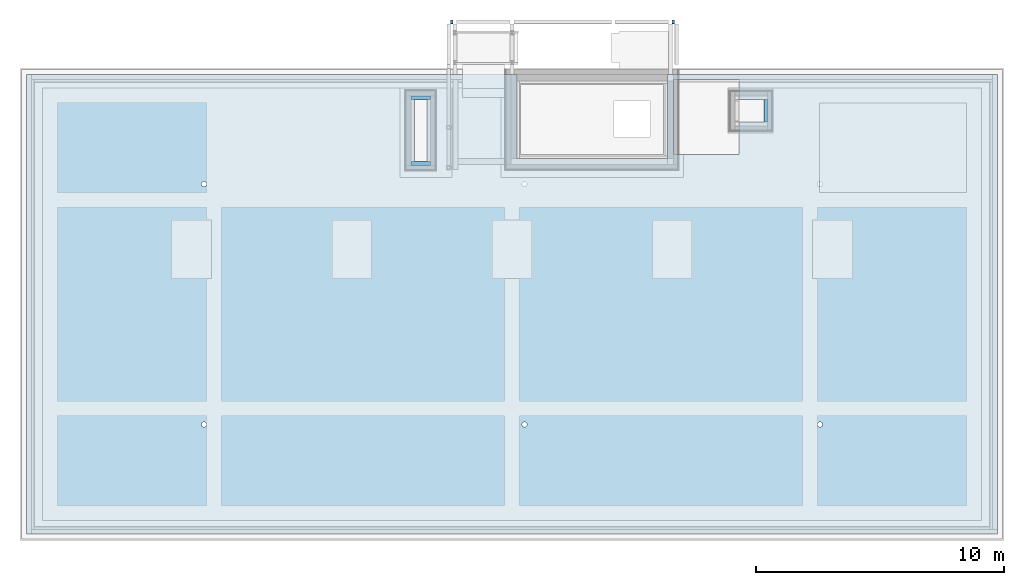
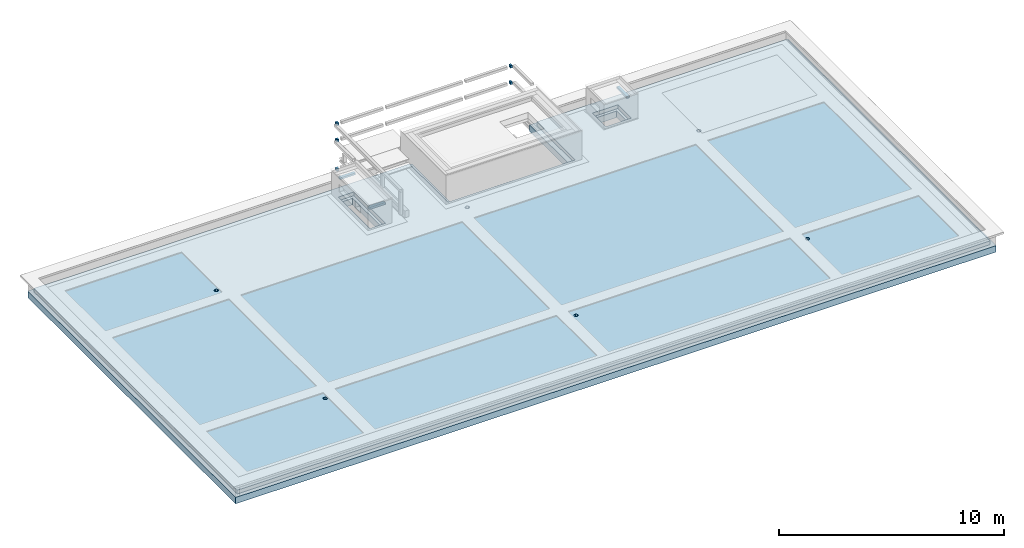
# One storey, part 4 of 8: 8 beams, 2 slabs, 16 openings.
"""IFC2X3 building model written with IfcOpenShell, lengths in centimetres."""

from ifc_helpers import new_model, entity, si_unit, converted_unit, derived_unit, direction, frame, frame_2d, origin, origin_2d_with_axis, place, context, subcontext, project, spatial, polyline, circle_curve, parameter, trimmed, segment, composite_curve, rectangle, circle, outline, extrude, material, layer, layer_set, layer_usage, type_object, element, save


model = new_model("IFC2X3")

# Units and contexts
model_context = context("Model", 3, precision=0.001, world=origin(), true_north=direction((6.12303176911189e-17, 1.0)))
body_context = subcontext(model_context, "Body", "Model", "MODEL_VIEW")
ifc_project = project(units=[si_unit("LENGTHUNIT", "METRE", prefix="CENTI"), si_unit("AREAUNIT", "SQUARE_METRE"), si_unit("VOLUMEUNIT", "CUBIC_METRE"), converted_unit("PLANEANGLEUNIT", "DEGREE", entity("IfcRatioMeasure", 0.0174532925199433), si_unit("PLANEANGLEUNIT", "RADIAN"), dimensions=[0, 0, 0, 0, 0, 0, 0]), si_unit("MASSUNIT", "GRAM", prefix="KILO"), derived_unit("MASSDENSITYUNIT", [(si_unit("MASSUNIT", "GRAM", prefix="KILO"), 1), (si_unit("LENGTHUNIT", "METRE"), -3)]), derived_unit("MOMENTOFINERTIAUNIT", [(si_unit("LENGTHUNIT", "METRE"), 4)]), si_unit("TIMEUNIT", "SECOND"), si_unit("FREQUENCYUNIT", "HERTZ"), si_unit("THERMODYNAMICTEMPERATUREUNIT", "DEGREE_CELSIUS"), derived_unit("THERMALTRANSMITTANCEUNIT", [(si_unit("MASSUNIT", "GRAM", prefix="KILO"), 1), (si_unit("THERMODYNAMICTEMPERATUREUNIT", "KELVIN"), -1), (si_unit("TIMEUNIT", "SECOND"), -3)]), derived_unit("VOLUMETRICFLOWRATEUNIT", [(si_unit("LENGTHUNIT", "METRE"), 3), (si_unit("TIMEUNIT", "SECOND"), -1)]), si_unit("ELECTRICCURRENTUNIT", "AMPERE"), si_unit("ELECTRICVOLTAGEUNIT", "VOLT"), si_unit("POWERUNIT", "WATT"), si_unit("FORCEUNIT", "NEWTON", prefix="KILO"), si_unit("ILLUMINANCEUNIT", "LUX"), si_unit("LUMINOUSFLUXUNIT", "LUMEN"), si_unit("LUMINOUSINTENSITYUNIT", "CANDELA"), derived_unit("USERDEFINED", [(si_unit("MASSUNIT", "GRAM", prefix="KILO"), -1), (si_unit("LENGTHUNIT", "METRE"), -2), (si_unit("TIMEUNIT", "SECOND"), 3), (si_unit("LUMINOUSFLUXUNIT", "LUMEN"), 1)]), derived_unit("LINEARVELOCITYUNIT", [(si_unit("LENGTHUNIT", "METRE"), 1), (si_unit("TIMEUNIT", "SECOND"), -1)]), si_unit("PRESSUREUNIT", "PASCAL"), derived_unit("USERDEFINED", [(si_unit("LENGTHUNIT", "METRE"), -2), (si_unit("MASSUNIT", "GRAM", prefix="KILO"), 1), (si_unit("TIMEUNIT", "SECOND"), -2)]), derived_unit("LINEARFORCEUNIT", [(si_unit("MASSUNIT", "GRAM", prefix="KILO"), 1), (si_unit("LENGTHUNIT", "METRE"), 1), (si_unit("TIMEUNIT", "SECOND"), -2), (si_unit("LENGTHUNIT", "METRE"), -1)]), derived_unit("PLANARFORCEUNIT", [(si_unit("MASSUNIT", "GRAM", prefix="KILO"), 1), (si_unit("LENGTHUNIT", "METRE"), 1), (si_unit("TIMEUNIT", "SECOND"), -2), (si_unit("LENGTHUNIT", "METRE"), -2)])], contexts=[model_context])

# Site, building, storey
site_placement = place(None, origin())
site = spatial("IfcSite", under=ifc_project, at=site_placement, Name="Default", CompositionType="ELEMENT")
building_placement = place(site_placement, origin())
building = spatial("IfcBuilding", under=site, at=building_placement, CompositionType="ELEMENT")
storey_placement = place(building_placement, frame((0.0, 0.0, 970.0)))
storey = spatial("IfcBuildingStorey", under=building, at=storey_placement, Name="Poziom 2K +9,70", CompositionType="ELEMENT", Elevation=970.0)

# Beams
ifc_material_1 = material(Name="_Beton C30/37")
beam_type_1 = type_object("IfcBeamType", Name="Beton-belka prostokątna:wieniec 10x15", PredefinedType="NOTDEFINED")
beam_1_placement = place(storey_placement, frame((-1386.76517166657, 1747.62759807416, -142.0)))
element("IfcBeam", 1, at=beam_1_placement, inside=storey, type_object=beam_type_1, material=ifc_material_1, Name="Beton-belka prostokątna:wieniec 10x15", ObjectType="Beton-belka prostokątna:wieniec 10x15", context=body_context, shape_type="SweptSolid", body=[
    extrude(rectangle(XDim=10.0000000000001, YDim=15.0000000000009, at=frame_2d((-1.08357767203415e-13, 2.16715534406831e-13), x_axis=(1.0, 0.0))), frame((0.0, 265.0, 270.0), z_axis=(1.0, 0.0, 0.0), x_axis=(0.0, 0.0, -1.0)), (0.0, 0.0, 1.0), 80.0000584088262),
])
beam_2_placement = place(storey_placement, frame((-1386.76517166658, 1482.62745205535, -142.0)))
element("IfcBeam", 2, at=beam_2_placement, inside=storey, type_object=beam_type_1, material=ifc_material_1, Name="Beton-belka prostokątna:wieniec 10x15", ObjectType="Beton-belka prostokątna:wieniec 10x15", context=body_context, shape_type="SweptSolid", body=[
    extrude(rectangle(XDim=10.0000000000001, YDim=15.0000000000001, at=frame_2d((-1.08357767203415e-13, 5.41344746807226e-13), x_axis=(1.0, 0.0))), frame((0.0, 265.0, 270.0), z_axis=(1.0, 0.0, 0.0), x_axis=(0.0, 0.0, -1.0)), (0.0, 0.0, 1.0), 80.0000584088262),
])
beam_3_placement = place(storey_placement, frame((306.734879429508, 1899.12578826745, -142.0), z_axis=(0.0, 0.0, 1.0), x_axis=(0.0, 1.0, 0.0)))
element("IfcBeam", 3, at=beam_3_placement, inside=storey, type_object=beam_type_1, material=ifc_material_1, Name="Beton-belka prostokątna:wieniec 10x15", ObjectType="Beton-belka prostokątna:wieniec 10x15", context=body_context, shape_type="SweptSolid", body=[
    extrude(rectangle(XDim=10.0000000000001, YDim=15.0000000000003, at=frame_2d((-1.08357767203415e-13, 0.0), x_axis=(1.0, 0.0))), frame((15.0, 265.0, 270.0), z_axis=(1.0, 0.0, 0.0), x_axis=(0.0, 0.0, -1.0)), (0.0, 0.0, 1.0), 90.0017225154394),
])
ifc_material_2 = material(Name="Stal konstrukcyjna - S235")
beam_type_2 = type_object("IfcBeamType", Name="STAL RK - Ksztaltowniki zamkniete kwadratowe:RK150x6", PredefinedType="NOTDEFINED")
beam_4_placement = place(storey_placement, frame((-1216.72475324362, 2317.08692648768, 175.0), z_axis=(0.0, 0.0, 1.0), x_axis=(-1.0, 0.0, 0.0)))
element("IfcBeam", 4, at=beam_4_placement, inside=storey, type_object=beam_type_2, material=ifc_material_2, Name="STAL RK - Ksztaltowniki zamkniete kwadratowe:RK150x6", ObjectType="STAL RK - Ksztaltowniki zamkniete kwadratowe:RK150x6", context=body_context, shape_type="SweptSolid", body=[
    extrude(outline(composite_curve([segment(trimmed(circle_curve(frame_2d((-6.29999999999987, -6.29999999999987), x_axis=(1.0, 0.0)), 1.2), [parameter(180.0)], [parameter(270.0)], True, "PARAMETER"), True, "CONTINUOUS"), segment(polyline([(-6.29999999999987, -7.50000000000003), (6.29999999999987, -7.50000000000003)]), True, "CONTINUOUS"), segment(trimmed(circle_curve(frame_2d((6.3000000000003, -6.30000000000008), x_axis=(1.0, 0.0)), 1.19999999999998), [parameter(270.0)], [parameter(360.0)], True, "PARAMETER"), True, "CONTINUOUS"), segment(polyline([(7.50000000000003, -6.30000000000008), (7.50000000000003, 6.29999999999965)]), True, "CONTINUOUS"), segment(trimmed(circle_curve(frame_2d((6.29999999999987, 6.29999999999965), x_axis=(1.0, 0.0)), 1.20000000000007), [parameter(360.0)], [parameter(89.9999999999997)], True, "PARAMETER"), True, "CONTINUOUS"), segment(polyline([(6.29999999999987, 7.49999999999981), (-6.30000000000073, 7.49999999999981)]), True, "CONTINUOUS"), segment(trimmed(circle_curve(frame_2d((-6.30000000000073, 6.30000000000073), x_axis=(1.0, 0.0)), 1.19999999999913), [parameter(89.9999999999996)], [parameter(179.999999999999)], True, "PARAMETER"), True, "CONTINUOUS"), segment(polyline([(-7.50000000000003, 6.30000000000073), (-7.50000000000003, -6.29999999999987)]), True, "CONTINUOUS")], self_intersect=False), holes=[composite_curve([segment(polyline([(-6.90000000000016, -6.29999999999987), (-6.90000000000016, 6.30000000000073)]), True, "CONTINUOUS"), segment(trimmed(circle_curve(frame_2d((-6.30000000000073, 6.30000000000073), x_axis=(1.0, 0.0)), 0.59999999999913), [parameter(90.0000000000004)], [parameter(180.0)], True, "PARAMETER"), False, "CONTINUOUS"), segment(polyline([(-6.30000000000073, 6.89999999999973), (6.29999999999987, 6.89999999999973)]), True, "CONTINUOUS"), segment(trimmed(circle_curve(frame_2d((6.29999999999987, 6.29999999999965), x_axis=(1.0, 0.0)), 0.600000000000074), [parameter(4.07110999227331e-13)], [parameter(90.0000000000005)], True, "PARAMETER"), False, "CONTINUOUS"), segment(polyline([(6.90000000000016, 6.29999999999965), (6.90000000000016, -6.30000000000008)]), True, "CONTINUOUS"), segment(trimmed(circle_curve(frame_2d((6.3000000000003, -6.30000000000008), x_axis=(1.0, 0.0)), 0.59999999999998), [parameter(270.0)], [parameter(5.08888749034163e-13)], True, "PARAMETER"), False, "CONTINUOUS"), segment(polyline([(6.29999999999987, -6.89999999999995), (-6.29999999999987, -6.89999999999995)]), True, "CONTINUOUS"), segment(trimmed(circle_curve(frame_2d((-6.29999999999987, -6.29999999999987), x_axis=(1.0, 0.0)), 0.600000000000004), [parameter(180.0)], [parameter(270.0)], True, "PARAMETER"), False, "CONTINUOUS")], self_intersect=False)]), frame((0.014791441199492, -0.259999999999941, 7.50000000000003), z_axis=(1.0, 0.0, 0.0), x_axis=(0.0, -1.0, 0.0)), (0.0, 0.0, 1.0), 10.5000000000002),
])
beam_5_placement = place(storey_placement, frame((-1216.72475324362, 2317.08692648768, 85.0), z_axis=(0.0, 0.0, 1.0), x_axis=(-1.0, 0.0, 0.0)))
element("IfcBeam", 5, at=beam_5_placement, inside=storey, type_object=beam_type_2, material=ifc_material_2, Name="STAL RK - Ksztaltowniki zamkniete kwadratowe:RK150x6", ObjectType="STAL RK - Ksztaltowniki zamkniete kwadratowe:RK150x6", context=body_context, shape_type="SweptSolid", body=[
    extrude(outline(composite_curve([segment(trimmed(circle_curve(frame_2d((-6.29999999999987, -6.29999999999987), x_axis=(1.0, 0.0)), 1.2), [parameter(180.0)], [parameter(270.0)], True, "PARAMETER"), True, "CONTINUOUS"), segment(polyline([(-6.29999999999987, -7.50000000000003), (6.29999999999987, -7.50000000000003)]), True, "CONTINUOUS"), segment(trimmed(circle_curve(frame_2d((6.3000000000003, -6.30000000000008), x_axis=(1.0, 0.0)), 1.19999999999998), [parameter(270.0)], [parameter(360.0)], True, "PARAMETER"), True, "CONTINUOUS"), segment(polyline([(7.50000000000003, -6.30000000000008), (7.50000000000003, 6.29999999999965)]), True, "CONTINUOUS"), segment(trimmed(circle_curve(frame_2d((6.29999999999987, 6.29999999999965), x_axis=(1.0, 0.0)), 1.20000000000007), [parameter(360.0)], [parameter(89.9999999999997)], True, "PARAMETER"), True, "CONTINUOUS"), segment(polyline([(6.29999999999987, 7.49999999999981), (-6.30000000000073, 7.49999999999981)]), True, "CONTINUOUS"), segment(trimmed(circle_curve(frame_2d((-6.30000000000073, 6.30000000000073), x_axis=(1.0, 0.0)), 1.19999999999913), [parameter(89.9999999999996)], [parameter(179.999999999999)], True, "PARAMETER"), True, "CONTINUOUS"), segment(polyline([(-7.50000000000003, 6.30000000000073), (-7.50000000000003, -6.29999999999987)]), True, "CONTINUOUS")], self_intersect=False), holes=[composite_curve([segment(polyline([(-6.90000000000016, -6.29999999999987), (-6.90000000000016, 6.30000000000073)]), True, "CONTINUOUS"), segment(trimmed(circle_curve(frame_2d((-6.30000000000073, 6.30000000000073), x_axis=(1.0, 0.0)), 0.59999999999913), [parameter(90.0000000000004)], [parameter(180.0)], True, "PARAMETER"), False, "CONTINUOUS"), segment(polyline([(-6.30000000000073, 6.89999999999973), (6.29999999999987, 6.89999999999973)]), True, "CONTINUOUS"), segment(trimmed(circle_curve(frame_2d((6.29999999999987, 6.29999999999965), x_axis=(1.0, 0.0)), 0.600000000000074), [parameter(4.07110999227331e-13)], [parameter(90.0000000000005)], True, "PARAMETER"), False, "CONTINUOUS"), segment(polyline([(6.90000000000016, 6.29999999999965), (6.90000000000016, -6.30000000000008)]), True, "CONTINUOUS"), segment(trimmed(circle_curve(frame_2d((6.3000000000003, -6.30000000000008), x_axis=(1.0, 0.0)), 0.59999999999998), [parameter(270.0)], [parameter(5.08888749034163e-13)], True, "PARAMETER"), False, "CONTINUOUS"), segment(polyline([(6.29999999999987, -6.89999999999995), (-6.29999999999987, -6.89999999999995)]), True, "CONTINUOUS"), segment(trimmed(circle_curve(frame_2d((-6.29999999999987, -6.29999999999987), x_axis=(1.0, 0.0)), 0.600000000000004), [parameter(180.0)], [parameter(270.0)], True, "PARAMETER"), False, "CONTINUOUS")], self_intersect=False)]), frame((0.0147914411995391, -0.259999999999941, 7.50000000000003), z_axis=(1.0, 0.0, 0.0), x_axis=(0.0, -1.0, 0.0)), (0.0, 0.0, 1.0), 10.5000000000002),
])
beam_6_placement = place(storey_placement, frame((-1216.72475324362, 2317.08692648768, -73.0), z_axis=(0.0, 0.0, 1.0), x_axis=(-1.0, 0.0, 0.0)))
element("IfcBeam", 6, at=beam_6_placement, inside=storey, type_object=beam_type_2, material=ifc_material_2, Name="STAL RK - Ksztaltowniki zamkniete kwadratowe:RK150x6", ObjectType="STAL RK - Ksztaltowniki zamkniete kwadratowe:RK150x6", context=body_context, shape_type="SweptSolid", body=[
    extrude(outline(composite_curve([segment(trimmed(circle_curve(frame_2d((-6.29999999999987, -6.30000000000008), x_axis=(1.0, 0.0)), 1.2), [parameter(180.0)], [parameter(270.0)], True, "PARAMETER"), True, "CONTINUOUS"), segment(polyline([(-6.29999999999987, -7.50000000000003), (6.29999999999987, -7.50000000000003)]), True, "CONTINUOUS"), segment(trimmed(circle_curve(frame_2d((6.3000000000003, -6.30000000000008), x_axis=(1.0, 0.0)), 1.19999999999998), [parameter(270.0)], [parameter(360.0)], True, "PARAMETER"), True, "CONTINUOUS"), segment(polyline([(7.50000000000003, -6.30000000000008), (7.50000000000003, 6.29999999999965)]), True, "CONTINUOUS"), segment(trimmed(circle_curve(frame_2d((6.29999999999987, 6.29999999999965), x_axis=(1.0, 0.0)), 1.20000000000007), [parameter(360.0)], [parameter(89.9999999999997)], True, "PARAMETER"), True, "CONTINUOUS"), segment(polyline([(6.29999999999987, 7.4999999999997), (-6.30000000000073, 7.4999999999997)]), True, "CONTINUOUS"), segment(trimmed(circle_curve(frame_2d((-6.30000000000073, 6.30000000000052), x_axis=(1.0, 0.0)), 1.19999999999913), [parameter(89.9999999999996)], [parameter(179.999999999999)], True, "PARAMETER"), True, "CONTINUOUS"), segment(polyline([(-7.50000000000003, 6.30000000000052), (-7.50000000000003, -6.30000000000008)]), True, "CONTINUOUS")], self_intersect=False), holes=[composite_curve([segment(polyline([(-6.90000000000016, -6.30000000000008), (-6.90000000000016, 6.30000000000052)]), True, "CONTINUOUS"), segment(trimmed(circle_curve(frame_2d((-6.30000000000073, 6.30000000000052), x_axis=(1.0, 0.0)), 0.59999999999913), [parameter(90.0000000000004)], [parameter(180.0)], True, "PARAMETER"), False, "CONTINUOUS"), segment(polyline([(-6.30000000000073, 6.89999999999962), (6.29999999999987, 6.89999999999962)]), True, "CONTINUOUS"), segment(trimmed(circle_curve(frame_2d((6.29999999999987, 6.29999999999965), x_axis=(1.0, 0.0)), 0.600000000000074), [parameter(4.07110999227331e-13)], [parameter(90.0000000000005)], True, "PARAMETER"), False, "CONTINUOUS"), segment(polyline([(6.90000000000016, 6.29999999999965), (6.90000000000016, -6.30000000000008)]), True, "CONTINUOUS"), segment(trimmed(circle_curve(frame_2d((6.3000000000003, -6.30000000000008), x_axis=(1.0, 0.0)), 0.59999999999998), [parameter(270.0)], [parameter(5.08888749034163e-13)], True, "PARAMETER"), False, "CONTINUOUS"), segment(polyline([(6.29999999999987, -6.90000000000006), (-6.29999999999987, -6.90000000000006)]), True, "CONTINUOUS"), segment(trimmed(circle_curve(frame_2d((-6.29999999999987, -6.30000000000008), x_axis=(1.0, 0.0)), 0.600000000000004), [parameter(180.0)], [parameter(270.0)], True, "PARAMETER"), False, "CONTINUOUS")], self_intersect=False)]), frame((0.0147914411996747, -0.259999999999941, 7.49999999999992), z_axis=(1.0, 0.0, 0.0), x_axis=(0.0, -1.0, 0.0)), (0.0, 0.0, 1.0), 10.5000000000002),
])
beam_7_placement = place(storey_placement, frame((-324.264944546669, 2317.08692648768, 175.0), z_axis=(0.0, 0.0, 1.0), x_axis=(-1.0, 0.0, 0.0)))
element("IfcBeam", 7, at=beam_7_placement, inside=storey, type_object=beam_type_2, material=ifc_material_2, Name="STAL RK - Ksztaltowniki zamkniete kwadratowe:RK150x6", ObjectType="STAL RK - Ksztaltowniki zamkniete kwadratowe:RK150x6", context=body_context, shape_type="SweptSolid", body=[
    extrude(outline(composite_curve([segment(trimmed(circle_curve(frame_2d((-6.29999999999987, -6.29999999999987), x_axis=(1.0, 0.0)), 1.2), [parameter(180.0)], [parameter(270.0)], True, "PARAMETER"), True, "CONTINUOUS"), segment(polyline([(-6.29999999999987, -7.50000000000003), (6.29999999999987, -7.50000000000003)]), True, "CONTINUOUS"), segment(trimmed(circle_curve(frame_2d((6.3000000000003, -6.30000000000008), x_axis=(1.0, 0.0)), 1.19999999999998), [parameter(270.0)], [parameter(360.0)], True, "PARAMETER"), True, "CONTINUOUS"), segment(polyline([(7.50000000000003, -6.30000000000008), (7.50000000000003, 6.29999999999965)]), True, "CONTINUOUS"), segment(trimmed(circle_curve(frame_2d((6.29999999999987, 6.29999999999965), x_axis=(1.0, 0.0)), 1.20000000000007), [parameter(360.0)], [parameter(89.9999999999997)], True, "PARAMETER"), True, "CONTINUOUS"), segment(polyline([(6.29999999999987, 7.49999999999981), (-6.30000000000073, 7.49999999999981)]), True, "CONTINUOUS"), segment(trimmed(circle_curve(frame_2d((-6.30000000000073, 6.30000000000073), x_axis=(1.0, 0.0)), 1.19999999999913), [parameter(89.9999999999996)], [parameter(179.999999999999)], True, "PARAMETER"), True, "CONTINUOUS"), segment(polyline([(-7.50000000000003, 6.30000000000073), (-7.50000000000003, -6.29999999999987)]), True, "CONTINUOUS")], self_intersect=False), holes=[composite_curve([segment(polyline([(-6.90000000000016, -6.29999999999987), (-6.90000000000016, 6.30000000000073)]), True, "CONTINUOUS"), segment(trimmed(circle_curve(frame_2d((-6.30000000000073, 6.30000000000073), x_axis=(1.0, 0.0)), 0.59999999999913), [parameter(90.0000000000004)], [parameter(180.0)], True, "PARAMETER"), False, "CONTINUOUS"), segment(polyline([(-6.30000000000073, 6.89999999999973), (6.29999999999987, 6.89999999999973)]), True, "CONTINUOUS"), segment(trimmed(circle_curve(frame_2d((6.29999999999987, 6.29999999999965), x_axis=(1.0, 0.0)), 0.600000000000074), [parameter(4.07110999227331e-13)], [parameter(90.0000000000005)], True, "PARAMETER"), False, "CONTINUOUS"), segment(polyline([(6.90000000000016, 6.29999999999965), (6.90000000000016, -6.30000000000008)]), True, "CONTINUOUS"), segment(trimmed(circle_curve(frame_2d((6.3000000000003, -6.30000000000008), x_axis=(1.0, 0.0)), 0.59999999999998), [parameter(270.0)], [parameter(5.08888749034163e-13)], True, "PARAMETER"), False, "CONTINUOUS"), segment(polyline([(6.29999999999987, -6.89999999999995), (-6.29999999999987, -6.89999999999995)]), True, "CONTINUOUS"), segment(trimmed(circle_curve(frame_2d((-6.29999999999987, -6.29999999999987), x_axis=(1.0, 0.0)), 0.600000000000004), [parameter(180.0)], [parameter(270.0)], True, "PARAMETER"), False, "CONTINUOUS")], self_intersect=False)]), frame((0.014791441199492, -0.259999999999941, 7.50000000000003), z_axis=(1.0, 0.0, 0.0), x_axis=(0.0, -1.0, 0.0)), (0.0, 0.0, 1.0), 9.97058157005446),
])
beam_8_placement = place(storey_placement, frame((-324.264944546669, 2317.08692648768, 84.9999646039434), z_axis=(0.0, 0.0, 1.0), x_axis=(-1.0, 0.0, 0.0)))
element("IfcBeam", 8, at=beam_8_placement, inside=storey, type_object=beam_type_2, material=ifc_material_2, Name="STAL RK - Ksztaltowniki zamkniete kwadratowe:RK150x6", ObjectType="STAL RK - Ksztaltowniki zamkniete kwadratowe:RK150x6", context=body_context, shape_type="SweptSolid", body=[
    extrude(outline(composite_curve([segment(trimmed(circle_curve(frame_2d((-6.29999999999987, -6.29999999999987), x_axis=(1.0, 0.0)), 1.2), [parameter(180.0)], [parameter(270.0)], True, "PARAMETER"), True, "CONTINUOUS"), segment(polyline([(-6.29999999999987, -7.50000000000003), (6.29999999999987, -7.50000000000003)]), True, "CONTINUOUS"), segment(trimmed(circle_curve(frame_2d((6.3000000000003, -6.30000000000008), x_axis=(1.0, 0.0)), 1.19999999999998), [parameter(270.0)], [parameter(360.0)], True, "PARAMETER"), True, "CONTINUOUS"), segment(polyline([(7.50000000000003, -6.30000000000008), (7.50000000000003, 6.29999999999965)]), True, "CONTINUOUS"), segment(trimmed(circle_curve(frame_2d((6.29999999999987, 6.29999999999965), x_axis=(1.0, 0.0)), 1.20000000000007), [parameter(360.0)], [parameter(89.9999999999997)], True, "PARAMETER"), True, "CONTINUOUS"), segment(polyline([(6.29999999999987, 7.49999999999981), (-6.30000000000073, 7.49999999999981)]), True, "CONTINUOUS"), segment(trimmed(circle_curve(frame_2d((-6.30000000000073, 6.30000000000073), x_axis=(1.0, 0.0)), 1.19999999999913), [parameter(89.9999999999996)], [parameter(179.999999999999)], True, "PARAMETER"), True, "CONTINUOUS"), segment(polyline([(-7.50000000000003, 6.30000000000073), (-7.50000000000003, -6.29999999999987)]), True, "CONTINUOUS")], self_intersect=False), holes=[composite_curve([segment(polyline([(-6.90000000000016, -6.29999999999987), (-6.90000000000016, 6.30000000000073)]), True, "CONTINUOUS"), segment(trimmed(circle_curve(frame_2d((-6.30000000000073, 6.30000000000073), x_axis=(1.0, 0.0)), 0.59999999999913), [parameter(90.0000000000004)], [parameter(180.0)], True, "PARAMETER"), False, "CONTINUOUS"), segment(polyline([(-6.30000000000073, 6.89999999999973), (6.29999999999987, 6.89999999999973)]), True, "CONTINUOUS"), segment(trimmed(circle_curve(frame_2d((6.29999999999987, 6.29999999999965), x_axis=(1.0, 0.0)), 0.600000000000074), [parameter(4.07110999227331e-13)], [parameter(90.0000000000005)], True, "PARAMETER"), False, "CONTINUOUS"), segment(polyline([(6.90000000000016, 6.29999999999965), (6.90000000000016, -6.30000000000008)]), True, "CONTINUOUS"), segment(trimmed(circle_curve(frame_2d((6.3000000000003, -6.30000000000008), x_axis=(1.0, 0.0)), 0.59999999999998), [parameter(270.0)], [parameter(5.08888749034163e-13)], True, "PARAMETER"), False, "CONTINUOUS"), segment(polyline([(6.29999999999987, -6.89999999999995), (-6.29999999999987, -6.89999999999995)]), True, "CONTINUOUS"), segment(trimmed(circle_curve(frame_2d((-6.29999999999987, -6.29999999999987), x_axis=(1.0, 0.0)), 0.600000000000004), [parameter(180.0)], [parameter(270.0)], True, "PARAMETER"), False, "CONTINUOUS")], self_intersect=False)]), frame((0.0147914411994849, -0.259999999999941, 7.50000000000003), z_axis=(1.0, 0.0, 0.0), x_axis=(0.0, -1.0, 0.0)), (0.0, 0.0, 1.0), 9.98537301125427),
])

# Slab, openings
ifc_layer_1 = layer(ifc_material_1, 35.0)
ifc_layer_set_1 = layer_set([ifc_layer_1], Name="Strop:Strop żelbetowy gr. 35cm")
ifc_layer_usage_1 = layer_usage(ifc_layer_set_1, "AXIS3", "POSITIVE", 0.0)
slab_type_1 = type_object("IfcSlabType", Name="Strop:Strop żelbetowy gr. 35cm", PredefinedType="FLOOR", material=ifc_layer_set_1)
slab_1_placement = place(storey_placement, frame((-2934.26510657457, 255.12765760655, -35.0)))
slab_1 = element("IfcSlab", 9, at=slab_1_placement, inside=storey, type_object=slab_type_1, material=ifc_layer_usage_1, Name="Strop:Strop żelbetowy gr. 35cm", ObjectType="Strop:Strop żelbetowy gr. 35cm", PredefinedType="FLOOR", context=body_context, shape_type="SweptSolid", body=[
    extrude(outline(polyline([(-1955.0, 924.999897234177), (-1955.0, -924.999897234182), (1955.0, -924.999897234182), (1955.0, 924.999897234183), (-19.9999987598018, 924.999897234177), (-19.9999987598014, 587.999897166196), (-624.999988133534, 587.999897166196), (-624.999988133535, 924.999897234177), (-1955.0, 924.999897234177)])), frame((1955.0, 924.999897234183, 35.0), z_axis=(0.0, 0.0, -1.0), x_axis=(-1.0, 0.0, 0.0)), (0.0, 0.0, 1.0), 35.0),
])
opening_1_placement = place(slab_1_placement, frame((2827.62498931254, 1691.64057830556, 35.0)))
element("IfcOpeningElement", 10, at=opening_1_placement, cuts=slab_1, Name="Strop:Strop żelbetowy gr. 35cm:2", ObjectType="Opening", context=body_context, shape_type="SweptSolid", body=[
    extrude(outline(polyline([(-40.8750028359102, -163.076043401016), (222.625002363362, -163.076043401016), (222.625002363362, 138.359216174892), (-40.8750028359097, 138.359216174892), (-40.8750028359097, 57.359274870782), (-140.874996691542, 57.3592748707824), (-140.874996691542, -32.6424476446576), (-40.87500283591, -32.6424476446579), (-40.8750028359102, -163.076043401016)])), frame((0.0, 0.0, 0.0), z_axis=(0.0, 0.0, -1.0), x_axis=(-1.0, 0.0, 0.0)), (0.0, 0.0, 1.0), 35.0),
])
opening_2_placement = place(slab_1_placement, frame((714.999980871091, 441.54979294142, 35.0)))
element("IfcOpeningElement", 11, at=opening_2_placement, cuts=slab_1, Name="Strop:Strop żelbetowy gr. 35cm:3", ObjectType="Opening", context=body_context, shape_type="SweptSolid", body=[
    extrude(circle(Radius=10.0000000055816, at=origin_2d_with_axis()), frame((0.0, 0.0, 0.0), z_axis=(0.0, 0.0, -1.0), x_axis=(1.0, 0.0, 0.0)), (0.0, 0.0, 1.0), 35.0),
])
opening_3_placement = place(slab_1_placement, frame((2004.9999806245, 441.549792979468, 35.0)))
element("IfcOpeningElement", 12, at=opening_3_placement, cuts=slab_1, Name="Strop:Strop żelbetowy gr. 35cm:4", ObjectType="Opening", context=body_context, shape_type="SweptSolid", body=[
    extrude(circle(Radius=9.99999999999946, at=origin_2d_with_axis()), frame((0.0, 0.0, 0.0), z_axis=(0.0, 0.0, -1.0), x_axis=(1.0, 0.0, 0.0)), (0.0, 0.0, 1.0), 35.0),
])
opening_4_placement = place(slab_1_placement, frame((3195.00007254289, 441.549778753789, 35.0)))
element("IfcOpeningElement", 13, at=opening_4_placement, cuts=slab_1, Name="Strop:Strop żelbetowy gr. 35cm:5", ObjectType="Opening", context=body_context, shape_type="SweptSolid", body=[
    extrude(circle(Radius=10.0000000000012, at=origin_2d_with_axis()), frame((0.0, 0.0, 0.0), z_axis=(0.0, 0.0, -1.0), x_axis=(1.0, 0.0, 0.0)), (0.0, 0.0, 1.0), 35.0),
])
opening_5_placement = place(slab_1_placement, frame((714.999980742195, 1409.49979592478, 35.0)))
element("IfcOpeningElement", 14, at=opening_5_placement, cuts=slab_1, Name="Strop:Strop żelbetowy gr. 35cm:6", ObjectType="Opening", context=body_context, shape_type="SweptSolid", body=[
    extrude(circle(Radius=10.0000000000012, at=origin_2d_with_axis()), frame((0.0, 0.0, 0.0), z_axis=(0.0, 0.0, -1.0), x_axis=(1.0, 0.0, 0.0)), (0.0, 0.0, 1.0), 35.0),
])
opening_6_placement = place(slab_1_placement, frame((2005.00007515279, 1409.49980953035, 35.0)))
element("IfcOpeningElement", 15, at=opening_6_placement, cuts=slab_1, Name="Strop:Strop żelbetowy gr. 35cm:7", ObjectType="Opening", context=body_context, shape_type="SweptSolid", body=[
    extrude(circle(Radius=9.99999999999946, at=origin_2d_with_axis()), frame((0.0, 0.0, 0.0), z_axis=(0.0, 0.0, -1.0), x_axis=(1.0, 0.0, 0.0)), (0.0, 0.0, 1.0), 35.0),
])
opening_7_placement = place(slab_1_placement, frame((3195.00006992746, 1409.49978207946, 35.0)))
element("IfcOpeningElement", 16, at=opening_7_placement, cuts=slab_1, Name="Strop:Strop żelbetowy gr. 35cm:8", ObjectType="Opening", context=body_context, shape_type="SweptSolid", body=[
    extrude(circle(Radius=9.99999999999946, at=origin_2d_with_axis()), frame((0.0, 0.0, 0.0), z_axis=(0.0, 0.0, -1.0), x_axis=(1.0, 0.0, 0.0)), (0.0, 0.0, 1.0), 35.0),
])
opening_8_placement = place(slab_1_placement, frame((1587.49902297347, 1624.99971686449, 35.0)))
element("IfcOpeningElement", 17, at=opening_8_placement, cuts=slab_1, Name="Strop:Strop żelbetowy gr. 35cm:9", ObjectType="Opening", context=body_context, shape_type="SweptSolid", body=[
    extrude(rectangle(XDim=50.0019455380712, YDim=249.999844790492, at=origin_2d_with_axis()), frame((0.0, 0.0, 0.0), z_axis=(0.0, 0.0, -1.0), x_axis=(1.0, 0.0, 0.0)), (0.0, 0.0, 1.0), 35.0),
])

ifc_material_3 = material(Name="Polistyren ekstrudowany (XPS)")
ifc_layer_2 = layer(ifc_material_3, 20.0)
ifc_layer_set_2 = layer_set([ifc_layer_2], Name="Strop:Stropodach - Polistyren ekstrudowany (XPS) 20cm")
ifc_layer_usage_2 = layer_usage(ifc_layer_set_2, "AXIS3", "POSITIVE", 0.0)
slab_type_2 = type_object("IfcSlabType", Name="Strop:Stropodach - Polistyren ekstrudowany (XPS) 20cm", PredefinedType="FLOOR", material=ifc_layer_set_2)
slab_2_placement = place(storey_placement, frame((-2914.26511743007, 275.12765760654, 0.0)))
slab_2 = element("IfcSlab", 18, at=slab_2_placement, inside=storey, type_object=slab_type_2, material=ifc_layer_usage_2, Name="Strop:Stropodach - Polistyren ekstrudowany (XPS) 20cm", ObjectType="Strop:Stropodach - Polistyren ekstrudowany (XPS) 20cm", PredefinedType="FLOOR", context=body_context, shape_type="SweptSolid", body=[
    extrude(outline(polyline([(4.99999581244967, 904.999897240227), (4.99999581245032, 562.999897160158), (-649.999993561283, 562.999897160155), (-649.999993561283, 904.999897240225), (-1935.00000424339, 904.999897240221), (-1935.00000424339, -904.999897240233), (1915.00000424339, -904.999897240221), (1935.00000424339, -904.999897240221), (1935.00000424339, 904.999897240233), (4.99999581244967, 904.999897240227)])), frame((1935.00000424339, 904.999897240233, 20.0), z_axis=(0.0, 0.0, -1.0), x_axis=(-1.0, 0.0, 0.0)), (0.0, 0.0, 1.0), 20.0),
])
opening_9_placement = place(slab_2_placement, frame((694.999991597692, 1389.49979592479, 20.0)))
element("IfcOpeningElement", 19, at=opening_9_placement, cuts=slab_2, Name="Strop:Stropodach - Polistyren ekstrudowany (XPS) 20cm:2", ObjectType="Opening", context=body_context, shape_type="SweptSolid", body=[
    extrude(circle(Radius=10.0000000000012, at=origin_2d_with_axis()), frame((0.0, 0.0, 0.0), z_axis=(0.0, 0.0, -1.0), x_axis=(1.0, 0.0, 0.0)), (0.0, 0.0, 1.0), 20.0),
])
opening_10_placement = place(slab_2_placement, frame((694.999991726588, 421.54979294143, 20.0)))
element("IfcOpeningElement", 20, at=opening_10_placement, cuts=slab_2, Name="Strop:Stropodach - Polistyren ekstrudowany (XPS) 20cm:3", ObjectType="Opening", context=body_context, shape_type="SweptSolid", body=[
    extrude(circle(Radius=10.0000000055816, at=origin_2d_with_axis()), frame((0.0, 0.0, 0.0), z_axis=(0.0, 0.0, -1.0), x_axis=(1.0, 0.0, 0.0)), (0.0, 0.0, 1.0), 20.0),
])
opening_11_placement = place(slab_2_placement, frame((1984.99999148, 421.549792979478, 20.0)))
element("IfcOpeningElement", 21, at=opening_11_placement, cuts=slab_2, Name="Strop:Stropodach - Polistyren ekstrudowany (XPS) 20cm:4", ObjectType="Opening", context=body_context, shape_type="SweptSolid", body=[
    extrude(circle(Radius=9.99999999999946, at=origin_2d_with_axis()), frame((0.0, 0.0, 0.0), z_axis=(0.0, 0.0, -1.0), x_axis=(1.0, 0.0, 0.0)), (0.0, 0.0, 1.0), 20.0),
])
opening_12_placement = place(slab_2_placement, frame((1985.00008600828, 1389.49980953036, 20.0)))
element("IfcOpeningElement", 22, at=opening_12_placement, cuts=slab_2, Name="Strop:Stropodach - Polistyren ekstrudowany (XPS) 20cm:5", ObjectType="Opening", context=body_context, shape_type="SweptSolid", body=[
    extrude(circle(Radius=9.99999999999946, at=origin_2d_with_axis()), frame((0.0, 0.0, 0.0), z_axis=(0.0, 0.0, -1.0), x_axis=(1.0, 0.0, 0.0)), (0.0, 0.0, 1.0), 20.0),
])
opening_13_placement = place(slab_2_placement, frame((1567.49997496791, 1604.99986745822, 20.0)))
element("IfcOpeningElement", 23, at=opening_13_placement, cuts=slab_2, Name="Strop:Stropodach - Polistyren ekstrudowany (XPS) 20cm:6", ObjectType="Opening", context=body_context, shape_type="SweptSolid", body=[
    extrude(rectangle(XDim=80.0000584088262, YDim=280.000146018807, at=origin_2d_with_axis()), frame((0.0, 0.0, 0.0), z_axis=(0.0, 0.0, -1.0), x_axis=(1.0, 0.0, 0.0)), (0.0, 0.0, 1.0), 20.0),
])
opening_14_placement = place(slab_2_placement, frame((3175.00008078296, 1389.49978207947, 20.0)))
element("IfcOpeningElement", 24, at=opening_14_placement, cuts=slab_2, Name="Strop:Stropodach - Polistyren ekstrudowany (XPS) 20cm:7", ObjectType="Opening", context=body_context, shape_type="SweptSolid", body=[
    extrude(circle(Radius=9.99999999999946, at=origin_2d_with_axis()), frame((0.0, 0.0, 0.0), z_axis=(0.0, 0.0, -1.0), x_axis=(1.0, 0.0, 0.0)), (0.0, 0.0, 1.0), 20.0),
])
opening_15_placement = place(slab_2_placement, frame((3175.00008339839, 421.549778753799, 20.0)))
element("IfcOpeningElement", 25, at=opening_15_placement, cuts=slab_2, Name="Strop:Stropodach - Polistyren ekstrudowany (XPS) 20cm:8", ObjectType="Opening", context=body_context, shape_type="SweptSolid", body=[
    extrude(circle(Radius=10.0000000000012, at=origin_2d_with_axis()), frame((0.0, 0.0, 0.0), z_axis=(0.0, 0.0, -1.0), x_axis=(1.0, 0.0, 0.0)), (0.0, 0.0, 1.0), 20.0),
])
opening_16_placement = place(slab_2_placement, frame((2898.49999993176, 1683.99899191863, 20.0)))
element("IfcOpeningElement", 26, at=opening_16_placement, cuts=slab_2, Name="Strop:Stropodach - Polistyren ekstrudowany (XPS) 20cm:9", ObjectType="Opening", context=body_context, shape_type="SweptSolid", body=[
    extrude(rectangle(XDim=120.00172251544, YDim=129.999993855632, at=origin_2d_with_axis()), frame((0.0, 0.0, 0.0), z_axis=(0.0, 0.0, -1.0), x_axis=(0.0, 1.0, 0.0)), (0.0, 0.0, 1.0), 20.0),
])

save(model, "model.ifc")
